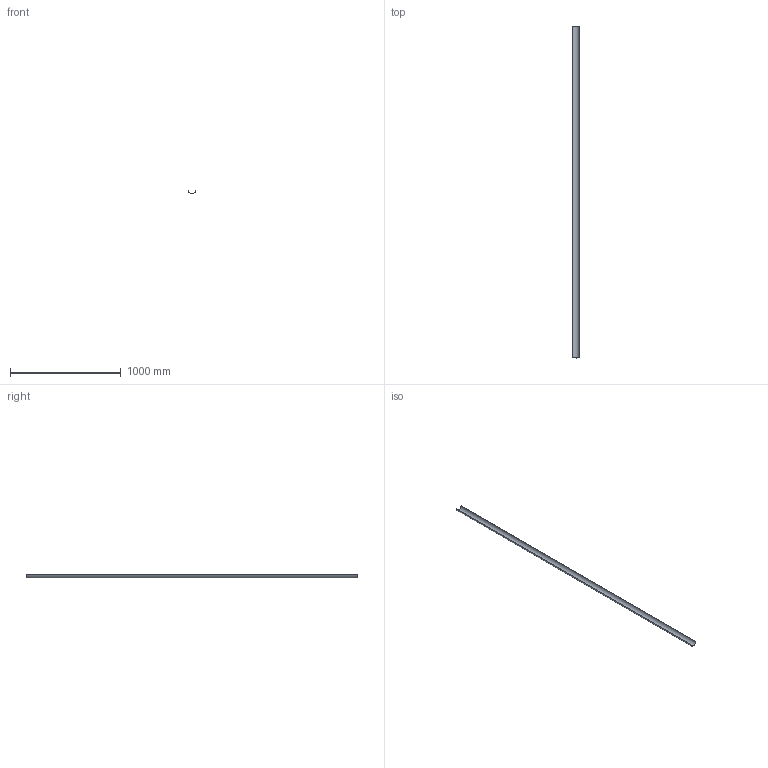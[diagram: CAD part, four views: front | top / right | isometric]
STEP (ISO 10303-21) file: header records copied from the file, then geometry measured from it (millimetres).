
FILE_DESCRIPTION(/* description */ (''),/* implementation_level */ '2;1');
FILE_NAME(/* name */ 'Z:\Geberit\Export\NewStep\364850.stp',/* time_stamp */ '2014-04-02T07:33:01+02:00',/* author */ ('bruh'),/* organization */ (''),/* preprocessor_version */ 'ST-DEVELOPER v15.2',/* originating_system */ 'Autodesk Inventor 2014',/* authorisation */ '');
FILE_SCHEMA (('AUTOMOTIVE_DESIGN { 1 0 10303 214 3 1 1 }'));
Length unit declared in the file: millimetre
Products named in the file (1): 364850
Bounding box: 64.5 x 3000 x 32.25 mm (x, y, z)
Volume: 225311.1 mm3; surface area: 605479.8 mm2
Topology: 1 solids, 1 shells, 6 faces, 12 edges, 8 vertices
Faces by surface type: plane 4, cylinder 2
Entity records: 187 total; most frequent: DIRECTION 30, CARTESIAN_POINT 27, ORIENTED_EDGE 24, EDGE_CURVE 12, AXIS2_PLACEMENT_3D 11, LINE 8, VECTOR 8, VERTEX_POINT 8
